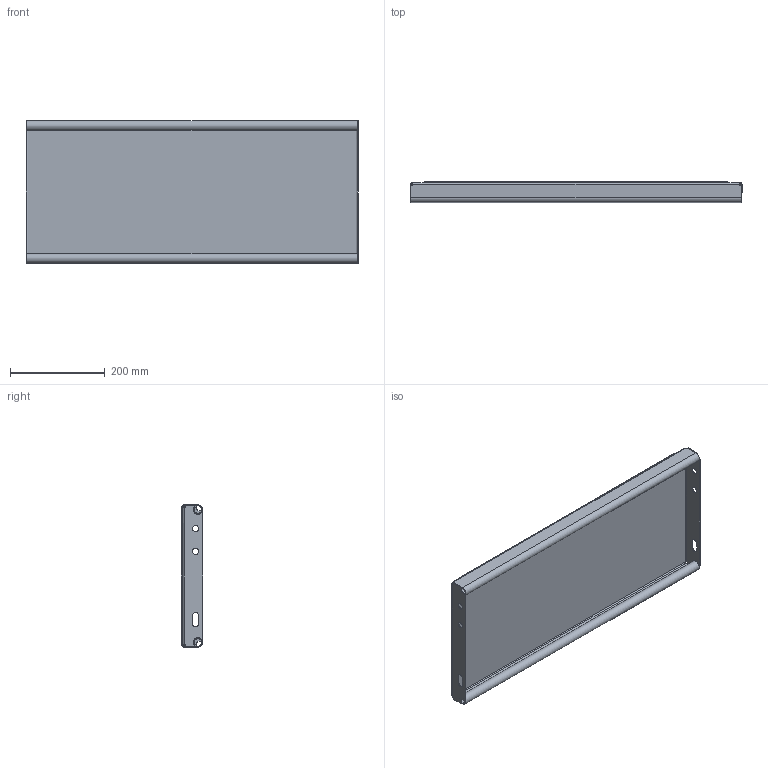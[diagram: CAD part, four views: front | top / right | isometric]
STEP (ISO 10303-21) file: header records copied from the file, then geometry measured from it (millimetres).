
FILE_DESCRIPTION (( 'STEP AP214' ), '1' );
FILE_NAME ('OPTIMO-Tread-Achil-O2-700x300x45x2-st240-F100510100_plain.STEP', '2021-03-18T12:06:44', ( '' ), ( '' ), 'SwSTEP 2.0', 'SolidWorks 2021', '' );
FILE_SCHEMA (( 'AUTOMOTIVE_DESIGN' ));
Length unit declared in the file: millimetre
Products named in the file (1): OPTIMO-Tread-Achil-O2-700x300x45x2-st240-F100510100_plain
Bounding box: 700 x 45 x 300 mm (x, y, z)
Volume: 1238410.7 mm3; surface area: 689178.3 mm2
Topology: 1 solids, 1 shells, 252 faces, 652 edges, 420 vertices
Faces by surface type: plane 173, cylinder 40, bspline 39
Entity records: 10072 total; most frequent: CARTESIAN_POINT 4116, ORIENTED_EDGE 1304, DIRECTION 1050, EDGE_CURVE 652, LINE 494, VECTOR 494, VERTEX_POINT 420, EDGE_LOOP 282
